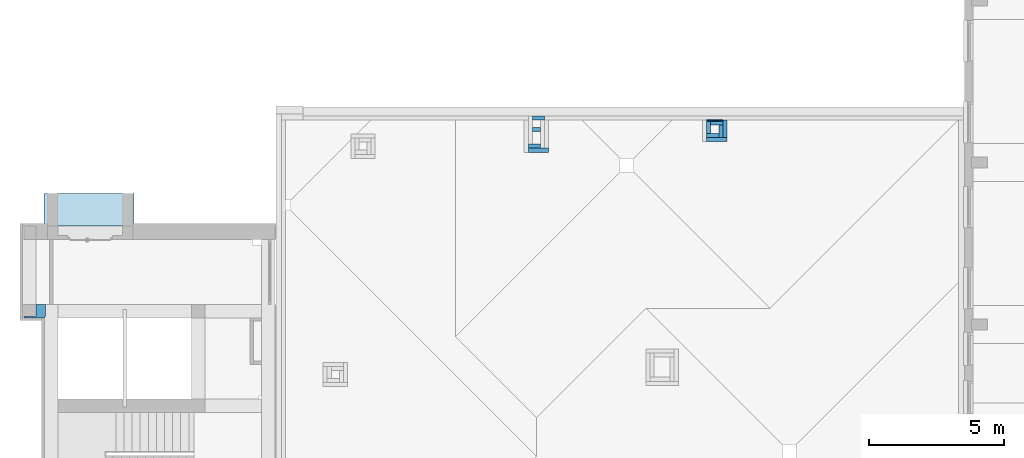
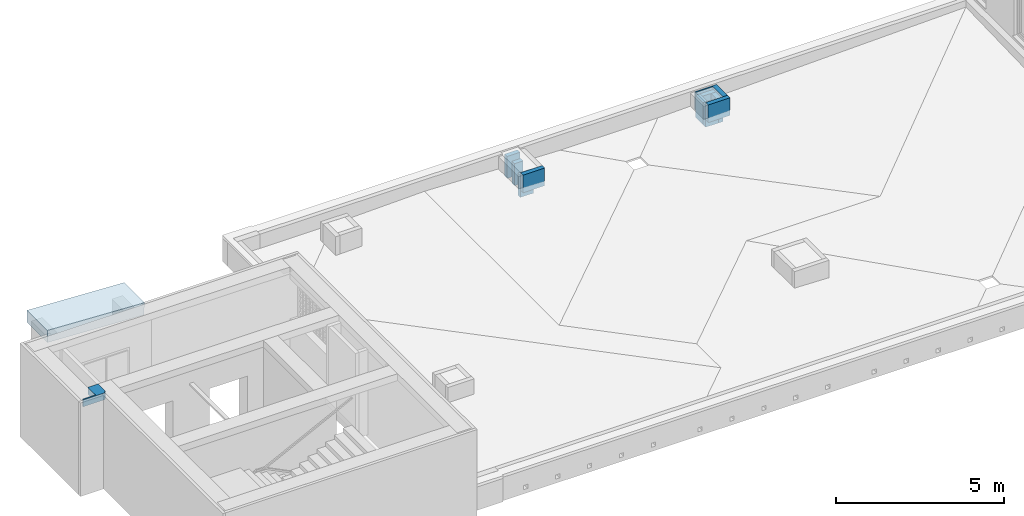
# One storey, part 13 of 27: 12 walls, 1 roof.
"""IFC4 building model written with IfcOpenShell, lengths in metres."""

from ifc_helpers import new_model, entity, si_unit, converted_unit, derived_unit, frame, frame_2d, origin, origin_with_axes, place, context, subcontext, project, spatial, polyline, rectangle, outline, extrude, faceted_brep, material, layer, layer_set, layer_usage, element, save


model = new_model("IFC4")

# Units and contexts
model_context = context("Model", 3, precision=1e-05, world=origin())
body_context = subcontext(model_context, "Body", "Model", "MODEL_VIEW")
ifc_project = project(units=[si_unit("LENGTHUNIT", "METRE"), si_unit("AREAUNIT", "SQUARE_METRE"), si_unit("VOLUMEUNIT", "CUBIC_METRE"), si_unit("MASSUNIT", "GRAM", prefix="KILO"), converted_unit("PLANEANGLEUNIT", "DEGREE", entity("IfcPlaneAngleMeasure", 0.0174532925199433), si_unit("PLANEANGLEUNIT", "RADIAN"), dimensions=[0, 0, 0, 0, 0, 0, 0]), derived_unit("THERMALTRANSMITTANCEUNIT", [(si_unit("POWERUNIT", "WATT"), 1), (si_unit("THERMODYNAMICTEMPERATUREUNIT", "KELVIN"), -1), (si_unit("LENGTHUNIT", "METRE"), -2)]), derived_unit("VOLUMETRICFLOWRATEUNIT", [(si_unit("LENGTHUNIT", "METRE"), 3), (converted_unit("TIMEUNIT", "hour", entity("IfcTimeMeasure", 3600.0), si_unit("TIMEUNIT", "SECOND"), dimensions=[0, 0, 1, 0, 0, 0, 0]), -1), (si_unit("LENGTHUNIT", "METRE"), -1)])], contexts=[model_context])

# Site, building, storey
site_placement = place(None, origin())
site = spatial("IfcSite", under=ifc_project, at=site_placement, Name="3. ASŘ", CompositionType="ELEMENT")
building_placement = place(site_placement, origin())
building = spatial("IfcBuilding", under=site, at=building_placement, Name="Pavilon C", CompositionType="ELEMENT")
storey_placement = place(building_placement, frame((0.0, 0.0, 7.2)))
storey = spatial("IfcBuildingStorey", under=building, at=storey_placement, Name="Půdorys 3.NP", CompositionType="ELEMENT", Elevation=7.2)

# Walls
ifc_material_1 = material(Name="ZDIVO")
ifc_layer_1 = layer(ifc_material_1, 0.150000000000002)
ifc_layer_set_1 = layer_set([ifc_layer_1])
ifc_layer_usage_1 = layer_usage(ifc_layer_set_1, "AXIS2", "POSITIVE", 0.0)
wall_1_placement = place(storey_placement, frame((15.1, 14.58, -0.1)))
element("IfcWall", 1, at=wall_1_placement, inside=storey, material=ifc_layer_usage_1, Name="ZDIVO Z CDm", context=body_context, shape_type="SweptSolid", body=[
    extrude(rectangle(XDim=0.450000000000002, YDim=0.150000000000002, at=frame_2d((0.225000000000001, 0.0750000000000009), x_axis=(1.0, 0.0))), origin_with_axes(), (0.0, 0.0, 1.0), 0.8),
])
ifc_material_2 = material(Name="ZDIVO")
ifc_layer_2 = layer(ifc_material_2, 0.150000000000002)
ifc_layer_set_2 = layer_set([ifc_layer_2])
ifc_layer_usage_2 = layer_usage(ifc_layer_set_2, "AXIS2", "POSITIVE", 0.0)
wall_2_placement = place(storey_placement, frame((15.1, 14.28, -0.1), z_axis=(0.0, 0.0, 1.0), x_axis=(0.0, 1.0, 0.0)))
element("IfcWall", 2, at=wall_2_placement, inside=storey, material=ifc_layer_usage_2, Name="ZDIVO Z CDm", context=body_context, shape_type="SweptSolid", body=[
    extrude(rectangle(XDim=0.450000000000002, YDim=0.150000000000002, at=frame_2d((0.225000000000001, 0.0750000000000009), x_axis=(1.0, 0.0))), origin_with_axes(), (0.0, 0.0, 1.0), 0.8),
])
ifc_material_3 = material(Name="ZDIVO")
ifc_layer_3 = layer(ifc_material_3, 0.150000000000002)
ifc_layer_set_3 = layer_set([ifc_layer_3])
ifc_layer_usage_3 = layer_usage(ifc_layer_set_3, "AXIS2", "POSITIVE", 0.0)
wall_3_placement = place(storey_placement, frame((15.4, 14.28, -0.1), z_axis=(0.0, 0.0, 1.0), x_axis=(-1.0, 0.0, 0.0)))
element("IfcWall", 3, at=wall_3_placement, inside=storey, material=ifc_layer_usage_3, Name="ZDIVO Z CDm", context=body_context, shape_type="SweptSolid", body=[
    extrude(rectangle(XDim=0.450000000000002, YDim=0.150000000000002, at=frame_2d((0.225000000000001, 0.0750000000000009), x_axis=(1.0, 0.0))), origin_with_axes(), (0.0, 0.0, 1.0), 0.8),
])
ifc_material_4 = material(Name="ZDIVO")
ifc_layer_4 = layer(ifc_material_4, 0.150000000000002)
ifc_layer_set_4 = layer_set([ifc_layer_4])
ifc_layer_usage_4 = layer_usage(ifc_layer_set_4, "AXIS2", "POSITIVE", 0.0)
wall_4_placement = place(storey_placement, frame((15.4, 14.58, -0.1), z_axis=(0.0, 0.0, 1.0), x_axis=(0.0, -1.0, 0.0)))
element("IfcWall", 4, at=wall_4_placement, inside=storey, material=ifc_layer_usage_4, Name="ZDIVO Z CDm", context=body_context, shape_type="SweptSolid", body=[
    extrude(rectangle(XDim=0.450000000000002, YDim=0.150000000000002, at=frame_2d((0.225000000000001, 0.0750000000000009), x_axis=(1.0, 0.0))), origin_with_axes(), (0.0, 0.0, 1.0), 0.8),
])
ifc_material_5 = material(Name="ZDIVO")
ifc_layer_5 = layer(ifc_material_5, 0.150000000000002)
ifc_layer_set_5 = layer_set([ifc_layer_5])
ifc_layer_usage_5 = layer_usage(ifc_layer_set_5, "AXIS2", "POSITIVE", 0.0)
wall_5_placement = place(storey_placement, frame((8.49500000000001, 14.78, -0.1)))
element("IfcWall", 5, at=wall_5_placement, inside=storey, material=ifc_layer_usage_5, Name="ZDIVO Z CDm", context=body_context, shape_type="SweptSolid", body=[
    extrude(rectangle(XDim=0.450000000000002, YDim=0.150000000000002, at=frame_2d((0.225000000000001, 0.0750000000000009), x_axis=(1.0, 0.0))), origin_with_axes(), (0.0, 0.0, 1.0), 0.8),
])
ifc_material_6 = material(Name="ZDIVO")
ifc_layer_6 = layer(ifc_material_6, 0.150000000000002)
ifc_layer_set_6 = layer_set([ifc_layer_6])
ifc_layer_usage_6 = layer_usage(ifc_layer_set_6, "AXIS2", "POSITIVE", 0.0)
wall_6_placement = place(storey_placement, frame((8.79500000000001, 13.88, -0.1), z_axis=(0.0, 0.0, 1.0), x_axis=(-1.0, 0.0, 0.0)))
element("IfcWall", 6, at=wall_6_placement, inside=storey, material=ifc_layer_usage_6, Name="ZDIVO Z CDm", context=body_context, shape_type="SweptSolid", body=[
    extrude(rectangle(XDim=0.450000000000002, YDim=0.150000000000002, at=frame_2d((0.225000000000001, 0.0750000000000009), x_axis=(1.0, 0.0))), origin_with_axes(), (0.0, 0.0, 1.0), 0.8),
])
ifc_material_7 = material(Name="ZDIVO")
ifc_layer_7 = layer(ifc_material_7, 0.150000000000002)
ifc_layer_set_7 = layer_set([ifc_layer_7])
ifc_layer_usage_7 = layer_usage(ifc_layer_set_7, "AXIS2", "POSITIVE", 0.0)
wall_7_placement = place(storey_placement, frame((8.49500000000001, 14.35, -0.1)))
element("IfcWall", 7, at=wall_7_placement, inside=storey, material=ifc_layer_usage_7, Name="ZDIVO Z CDm", context=body_context, shape_type="SweptSolid", body=[
    extrude(rectangle(XDim=0.3, YDim=0.150000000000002, at=frame_2d((0.15, 0.0750000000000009), x_axis=(1.0, 0.0))), origin_with_axes(), (0.0, 0.0, 1.0), 0.8),
])
ifc_material_8 = material(Name="ZELEZOBETONOVÁ KCE")
ifc_layer_8 = layer(ifc_material_8, 0.45)
ifc_material_9 = material(Name="LIGNOPOR")
ifc_layer_9 = layer(ifc_material_9, 0.05)
ifc_layer_set_8 = layer_set([ifc_layer_8, ifc_layer_9])
ifc_layer_usage_8 = layer_usage(ifc_layer_set_8, "AXIS2", "POSITIVE", 0.0)
wall_8_placement = place(storey_placement, frame((-9.52499999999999, 7.95, 2.63), z_axis=(0.0, 0.0, 1.0), x_axis=(-1.0, 0.0, 0.0)))
element("IfcWall", 8, at=wall_8_placement, inside=storey, material=ifc_layer_usage_8, context=body_context, shape_type="SweptSolid", body=[
    extrude(outline(polyline([(-0.799999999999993, -0.5), (-0.45, -0.5), (-0.45, -0.05), (0.0, -0.05), (0.0, 0.0), (-0.75, 0.0), (-0.75, -0.05), (-0.799999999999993, -0.05), (-0.799999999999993, -0.5)])), frame((0.799999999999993, 0.5, 0.0), z_axis=(0.0, 0.0, 1.0), x_axis=(1.0, 0.0, 0.0)), (0.0, 0.0, 1.0), 0.25),
])
ifc_material_10 = material(Name="MINERÁLNÍ VATA")
ifc_layer_10 = layer(ifc_material_10, 0.15)
ifc_layer_set_9 = layer_set([ifc_layer_10])
ifc_layer_usage_9 = layer_usage(ifc_layer_set_9, "AXIS2", "POSITIVE", 0.0)
wall_9_placement = place(storey_placement, frame((9.09500000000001, 13.73, 0.16), z_axis=(0.0, 0.0, 1.0), x_axis=(-1.0, 0.0, 0.0)))
element("IfcWall", 9, at=wall_9_placement, inside=storey, material=ifc_layer_usage_9, Name="MINERÁLNÍ VATA", context=body_context, shape_type="SweptSolid", body=[
    extrude(rectangle(XDim=0.750000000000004, YDim=0.15, at=frame_2d((0.375000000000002, 0.075), x_axis=(1.0, 0.0))), origin_with_axes(), (0.0, 0.0, 1.0), 0.64),
])
ifc_material_11 = material(Name="MINERÁLNÍ VATA")
ifc_layer_11 = layer(ifc_material_11, 0.05)
ifc_layer_set_10 = layer_set([ifc_layer_11])
ifc_layer_usage_10 = layer_usage(ifc_layer_set_10, "AXIS2", "POSITIVE", 0.0)
wall_10_placement = place(storey_placement, frame((14.95, 14.73, 0.16)))
element("IfcWall", 10, at=wall_10_placement, inside=storey, material=ifc_layer_usage_10, Name="MINERÁLNÍ VATA", context=body_context, shape_type="SweptSolid", body=[
    extrude(rectangle(XDim=0.600000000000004, YDim=0.05, at=frame_2d((0.300000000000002, 0.025), x_axis=(1.0, 0.0))), origin_with_axes(), (0.0, 0.0, 1.0), 0.64),
])
ifc_material_12 = material(Name="MINERÁLNÍ VATA")
ifc_layer_12 = layer(ifc_material_12, 0.15)
ifc_layer_set_11 = layer_set([ifc_layer_12])
ifc_layer_usage_11 = layer_usage(ifc_layer_set_11, "AXIS2", "POSITIVE", 0.0)
wall_11_placement = place(storey_placement, frame((15.7, 14.13, 0.16), z_axis=(0.0, 0.0, 1.0), x_axis=(-1.0, 0.0, 0.0)))
element("IfcWall", 11, at=wall_11_placement, inside=storey, material=ifc_layer_usage_11, Name="MINERÁLNÍ VATA", context=body_context, shape_type="SweptSolid", body=[
    extrude(rectangle(XDim=0.750000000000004, YDim=0.15, at=frame_2d((0.375000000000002, 0.075), x_axis=(1.0, 0.0))), origin_with_axes(), (0.0, 0.0, 1.0), 0.64),
])
ifc_material_13 = material(Name="MINERÁLNÍ VATA")
ifc_layer_13 = layer(ifc_material_13, 0.15)
ifc_layer_set_12 = layer_set([ifc_layer_13])
ifc_layer_usage_12 = layer_usage(ifc_layer_set_12, "AXIS2", "POSITIVE", 0.0)
wall_12_placement = place(storey_placement, frame((15.55, 14.78, 0.16), z_axis=(0.0, 0.0, 1.0), x_axis=(0.0, -1.0, 0.0)))
element("IfcWall", 12, at=wall_12_placement, inside=storey, material=ifc_layer_usage_12, Name="MINERÁLNÍ VATA", context=body_context, shape_type="SweptSolid", body=[
    extrude(rectangle(XDim=0.650000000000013, YDim=0.15, at=frame_2d((0.325000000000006, 0.075), x_axis=(1.0, 0.0))), origin_with_axes(), (0.0, 0.0, 1.0), 0.64),
])

# Roof
ifc_material_14 = material(Name="STŘECHA + PLECHOVÁ KRYTINA")
roof_placement = place(storey_placement, frame((-9.58999999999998, 10.85, 2.49050399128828)))
element("IfcRoof", 13, at=roof_placement, inside=storey, material=ifc_material_14, PredefinedType="NOTDEFINED", context=body_context, shape_type="Brep", body=[
    faceted_brep([(0.0, 1.21, 0.158991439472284), (0.0, 0.0, 0.158991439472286), (3.31894629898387, 0.0, 1.81898940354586e-15), (3.31894629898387, 1.21, 0.0), (0.0, 1.21, 0.599496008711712), (3.34, 1.21, 0.439496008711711), (3.34, 0.0, 0.439496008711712), (0.0, 0.0, 0.599496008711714)], [[[0, 1, 2, 3]], [[4, 5, 6, 7]], [[4, 7, 1, 0]], [[7, 6, 2, 1]], [[6, 5, 3, 2]], [[5, 4, 0, 3]]], orient=[[False], [False], [False], [False], [False], [False]]),
])

save(model, "model.ifc")
